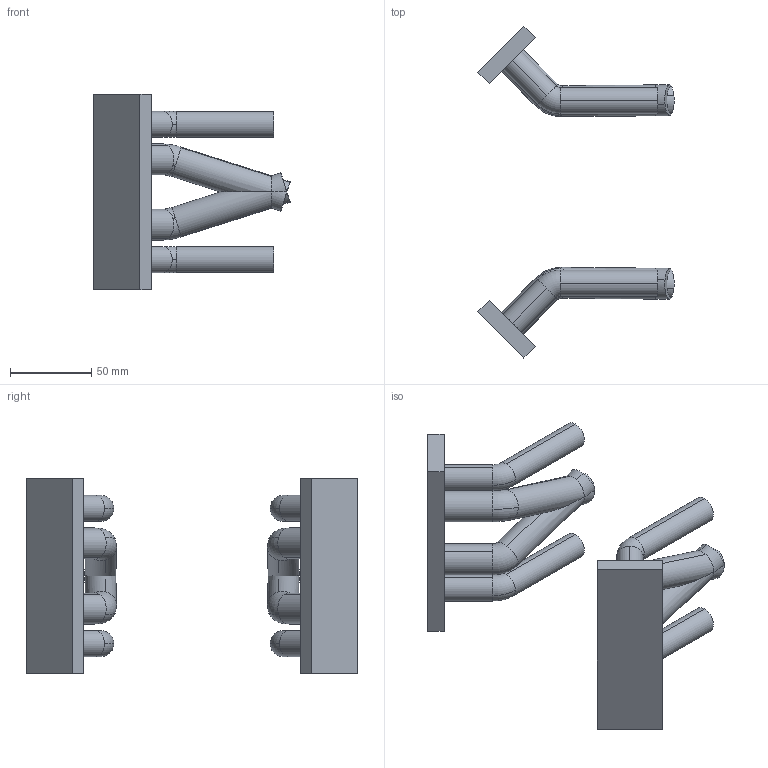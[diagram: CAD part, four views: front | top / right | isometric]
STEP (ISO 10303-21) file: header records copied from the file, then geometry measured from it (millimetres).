
FILE_DESCRIPTION(('STEP AP214'),'1');
FILE_NAME('C:/Users/mashimo/Documents/円弧動エンジン/ボア4.4ｃｍ/TurboCAD/3D/tmp0.STEP','2023-12-27T10:14:02',(' '),(' '),'Spatial InterOp 3D',' ',' ');
FILE_SCHEMA(('automotive_design'));
Length unit declared in the file: millimetre
Products named in the file (2): 1; 2
Bounding box: 120.53 x 203.65 x 120 mm (x, y, z)
Volume: 287893 mm3; surface area: 67845.5 mm2
Topology: 2 solids, 2 shells, 88 faces, 214 edges, 134 vertices
Faces by surface type: cylinder 48, plane 24, torus 16
Entity records: 3397 total; most frequent: DIRECTION 542, CARTESIAN_POINT 438, ORIENTED_EDGE 428, AXIS2_PLACEMENT_3D 238, EDGE_CURVE 214, VERTEX_POINT 134, CIRCLE 120, EDGE_LOOP 96
